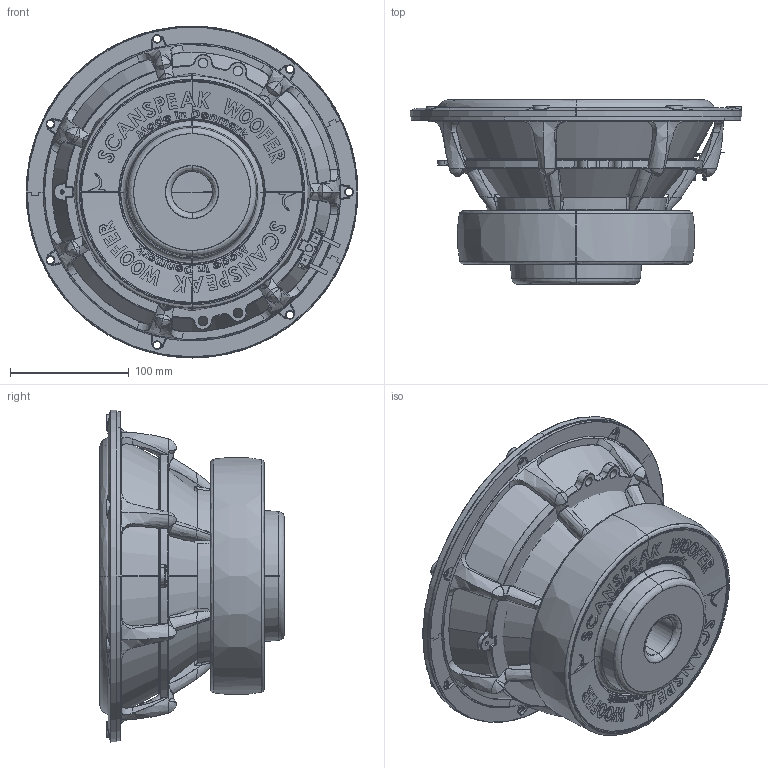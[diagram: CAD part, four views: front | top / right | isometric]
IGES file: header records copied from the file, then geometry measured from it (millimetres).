
Start section: SolidWorks IGES file using analytic representation for surfaces
Global section: file name: W:\TT\28W\28W-8878T01.IGS; native system: SolidWorks 2019; preprocessor: SolidWorks 2019; author: mhn; date: 201217.124202; units: millimetre
Bounding box: 279.88 x 155.6 x 279.88 mm (x, y, z)
Surface area: 661893.6 mm2 (no closed solid volume)
Topology: 0 solids, 0 shells, 1540 faces, 26436 edges, 26323 vertices
Faces by surface type: bspline 1112, revolution 428
